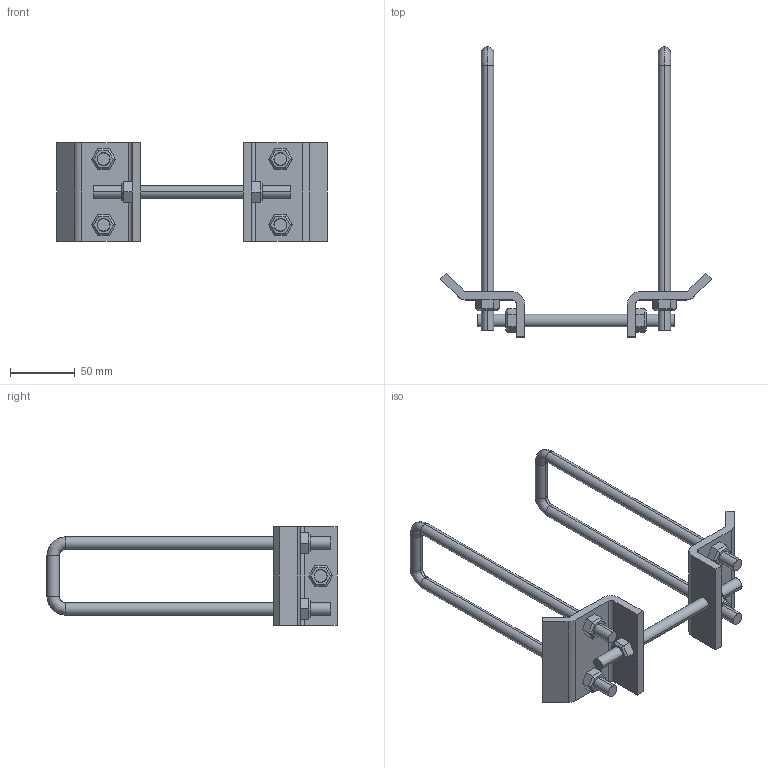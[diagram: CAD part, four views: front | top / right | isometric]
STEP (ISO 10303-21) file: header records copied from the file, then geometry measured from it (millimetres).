
FILE_DESCRIPTION(('TurboCAD Mac Pro'),'Build 980');
FILE_NAME('P2868B.stp',' ',(''),(''),'ACIS Interop','IMSI','TurboCAD Mac Pro BY IMSI, INCORPORATED');
FILE_SCHEMA(('automotive_design'));
Length unit declared in the file: inch
Products named in the file (11): 1; 2; 3; 4; 5; 6; 7; 8; 9; 10; 11
Bounding box: 209 x 223.86 x 76.2 mm (x, y, z)
Volume: 173412.3 mm3; surface area: 72269.7 mm2
Topology: 11 solids, 11 shells, 176 faces, 410 edges, 256 vertices
Faces by surface type: plane 110, bspline 40, cylinder 26
Entity records: 9070 total; most frequent: CARTESIAN_POINT 1837, ORIENTED_EDGE 820, DIRECTION 692, STYLED_ITEM 535, PRESENTATION_STYLE_ASSIGNMENT 535, COLOUR_RGB 535, EDGE_CURVE 410, CURVE_STYLE 348
